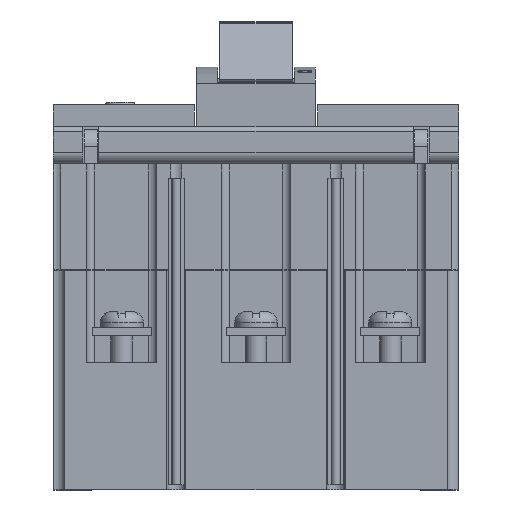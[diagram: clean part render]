
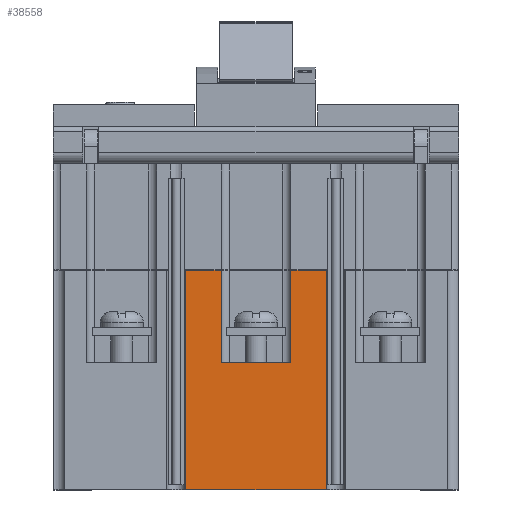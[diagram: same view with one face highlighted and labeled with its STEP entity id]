
A CAD part, front view. The second image highlights one B-rep face of the part: STEP entity #38558.
In plain terms, the highlighted planar face has unit normal (0, -1, 0).
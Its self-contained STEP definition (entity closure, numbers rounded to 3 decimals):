
#3173 = VECTOR ( 'NONE', #14427, 1000. ) ;
#13248 = LINE ( 'NONE', #13249, #32392 ) ;
#13249 = CARTESIAN_POINT ( 'NONE',  ( -6.5, -65.5, -12.15 ) ) ;
#13250 = DIRECTION ( 'NONE',  ( -1., 0., 0. ) ) ;
#13251 = LINE ( 'NONE', #13252, #32393 ) ;
#13252 = CARTESIAN_POINT ( 'NONE',  ( 6.5, -65.5, -12.15 ) ) ;
#13253 = DIRECTION ( 'NONE',  ( 0., 0., 1. ) ) ;
#13254 = LINE ( 'NONE', #13255, #32394 ) ;
#13255 = CARTESIAN_POINT ( 'NONE',  ( 37.75, -65.5, 5.05 ) ) ;
#13256 = DIRECTION ( 'NONE',  ( 1., 0., 0. ) ) ;
#13257 = LINE ( 'NONE', #13258, #32395 ) ;
#13258 = CARTESIAN_POINT ( 'NONE',  ( 13.1, -65.5, 5.15 ) ) ;
#13259 = DIRECTION ( 'NONE',  ( 0., 0., -1. ) ) ;
#13260 = LINE ( 'NONE', #13261, #32396 ) ;
#13261 = CARTESIAN_POINT ( 'NONE',  ( 37.75, -65.5, -35.85 ) ) ;
#13262 = DIRECTION ( 'NONE',  ( -1., 0., 0. ) ) ;
#13263 = LINE ( 'NONE', #13264, #32397 ) ;
#13264 = CARTESIAN_POINT ( 'NONE',  ( 37.75, -65.5, 5.05 ) ) ;
#13265 = DIRECTION ( 'NONE',  ( 1., 0., 0. ) ) ;
#13266 = LINE ( 'NONE', #13267, #32398 ) ;
#13267 = CARTESIAN_POINT ( 'NONE',  ( -13.1, -65.5, 5.15 ) ) ;
#13268 = DIRECTION ( 'NONE',  ( 0., 0., -1. ) ) ;
#14425 = LINE ( 'NONE', #14426, #3173 ) ;
#14426 = CARTESIAN_POINT ( 'NONE',  ( -6.5, -65.5, -12.15 ) ) ;
#14427 = DIRECTION ( 'NONE',  ( 0., 0., 1. ) ) ;
#21410 = PLANE ( 'NONE',  #22520 ) ;
#21411 = CARTESIAN_POINT ( 'NONE',  ( 37.75, -65.5, 24.85 ) ) ;
#21412 = DIRECTION ( 'NONE',  ( 0., 1., 0. ) ) ;
#21413 = DIRECTION ( 'NONE',  ( 0., 0., 1. ) ) ;
#22517 = FACE_OUTER_BOUND ( 'NONE', #45149, .T. ) ;
#22520 = AXIS2_PLACEMENT_3D ( 'NONE', #21411, #21412, #21413 ) ;
#23719 = CARTESIAN_POINT ( 'NONE',  ( -13.1, -65.5, 5.05 ) ) ;
#23720 = CARTESIAN_POINT ( 'NONE',  ( -6.5, -65.5, 5.05 ) ) ;
#23721 = CARTESIAN_POINT ( 'NONE',  ( -13.1, -65.5, -35.85 ) ) ;
#23722 = CARTESIAN_POINT ( 'NONE',  ( 13.1, -65.5, -35.85 ) ) ;
#23723 = CARTESIAN_POINT ( 'NONE',  ( 13.1, -65.5, 5.05 ) ) ;
#23724 = CARTESIAN_POINT ( 'NONE',  ( 6.5, -65.5, 5.05 ) ) ;
#23725 = CARTESIAN_POINT ( 'NONE',  ( 6.5, -65.5, -12.15 ) ) ;
#23726 = CARTESIAN_POINT ( 'NONE',  ( -6.5, -65.5, -12.15 ) ) ;
#29457 = EDGE_CURVE ( 'NONE', #43966, #43967, #13248, .T. ) ;
#29458 = EDGE_CURVE ( 'NONE', #43966, #43965, #13251, .T. ) ;
#29459 = EDGE_CURVE ( 'NONE', #43965, #43964, #13254, .T. ) ;
#29460 = EDGE_CURVE ( 'NONE', #43964, #43963, #13257, .T. ) ;
#29461 = EDGE_CURVE ( 'NONE', #43963, #43962, #13260, .T. ) ;
#29462 = EDGE_CURVE ( 'NONE', #43960, #43961, #13263, .T. ) ;
#29463 = EDGE_CURVE ( 'NONE', #43960, #43962, #13266, .T. ) ;
#29788 = EDGE_CURVE ( 'NONE', #43967, #43961, #14425, .T. ) ;
#32392 = VECTOR ( 'NONE', #13250, 1000. ) ;
#32393 = VECTOR ( 'NONE', #13253, 1000. ) ;
#32394 = VECTOR ( 'NONE', #13256, 1000. ) ;
#32395 = VECTOR ( 'NONE', #13259, 1000. ) ;
#32396 = VECTOR ( 'NONE', #13262, 1000. ) ;
#32397 = VECTOR ( 'NONE', #13265, 1000. ) ;
#32398 = VECTOR ( 'NONE', #13268, 1000. ) ;
#35709 = ORIENTED_EDGE ( 'NONE', *, *, #29788, .T. ) ;
#35710 = ORIENTED_EDGE ( 'NONE', *, *, #29457, .T. ) ;
#35711 = ORIENTED_EDGE ( 'NONE', *, *, #29458, .F. ) ;
#35712 = ORIENTED_EDGE ( 'NONE', *, *, #29459, .F. ) ;
#35713 = ORIENTED_EDGE ( 'NONE', *, *, #29460, .F. ) ;
#35714 = ORIENTED_EDGE ( 'NONE', *, *, #29463, .T. ) ;
#35715 = ORIENTED_EDGE ( 'NONE', *, *, #29461, .F. ) ;
#35716 = ORIENTED_EDGE ( 'NONE', *, *, #29462, .F. ) ;
#38558 = ADVANCED_FACE ( 'NONE', ( #22517 ), #21410, .F. ) ;
#43960 = VERTEX_POINT ( 'NONE', #23719 ) ;
#43961 = VERTEX_POINT ( 'NONE', #23720 ) ;
#43962 = VERTEX_POINT ( 'NONE', #23721 ) ;
#43963 = VERTEX_POINT ( 'NONE', #23722 ) ;
#43964 = VERTEX_POINT ( 'NONE', #23723 ) ;
#43965 = VERTEX_POINT ( 'NONE', #23724 ) ;
#43966 = VERTEX_POINT ( 'NONE', #23725 ) ;
#43967 = VERTEX_POINT ( 'NONE', #23726 ) ;
#45149 = EDGE_LOOP ( 'NONE', ( #35716, #35714, #35715, #35713, #35712, #35711, #35710, #35709 ) ) ;
